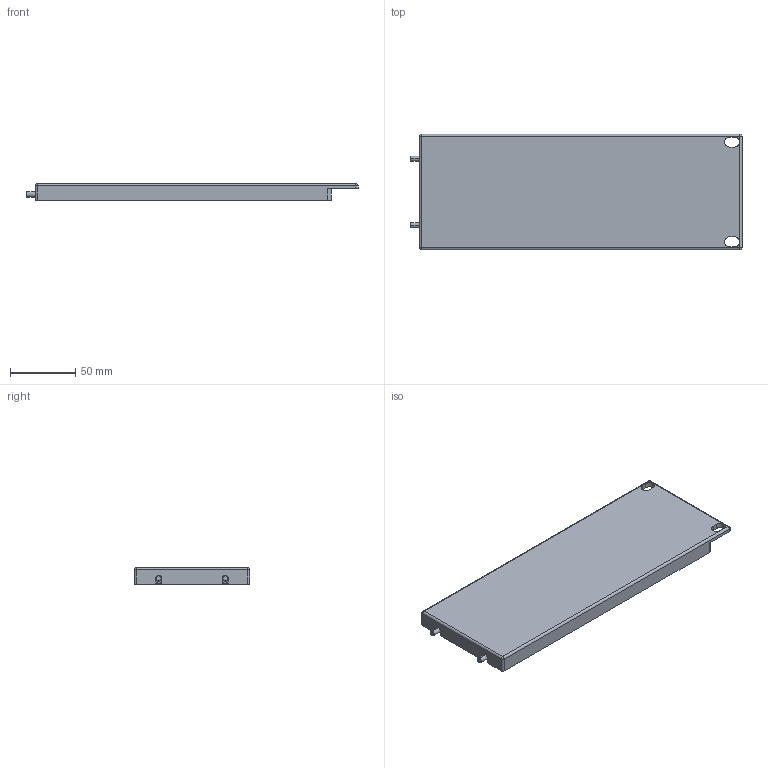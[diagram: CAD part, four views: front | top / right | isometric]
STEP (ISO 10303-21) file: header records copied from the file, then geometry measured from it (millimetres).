
FILE_DESCRIPTION (( 'STEP AP214' ), '1' );
FILE_NAME ('1401-RM-1, part 2 of 2.STEP', '2019-11-18T18:25:13', ( '' ), ( '' ), 'SwSTEP 2.0', 'SolidWorks 2018', '' );
FILE_SCHEMA (( 'AUTOMOTIVE_DESIGN' ));
Length unit declared in the file: inch
Products named in the file (1): 1401-RM-1, part 2 of 2
Bounding box: 253.49 x 88.14 x 12.7 mm (x, y, z)
Volume: 111909.3 mm3; surface area: 60913 mm2
Topology: 7 solids, 7 shells, 268 faces, 647 edges, 406 vertices
Faces by surface type: plane 135, bspline 49, cylinder 46, cone 26, torus 8, sphere 4
Entity records: 14063 total; most frequent: CARTESIAN_POINT 4477, ORIENTED_EDGE 1286, DIRECTION 1117, EDGE_CURVE 643, VERTEX_POINT 406, VECTOR 385, LINE 385, AXIS2_PLACEMENT_3D 366
